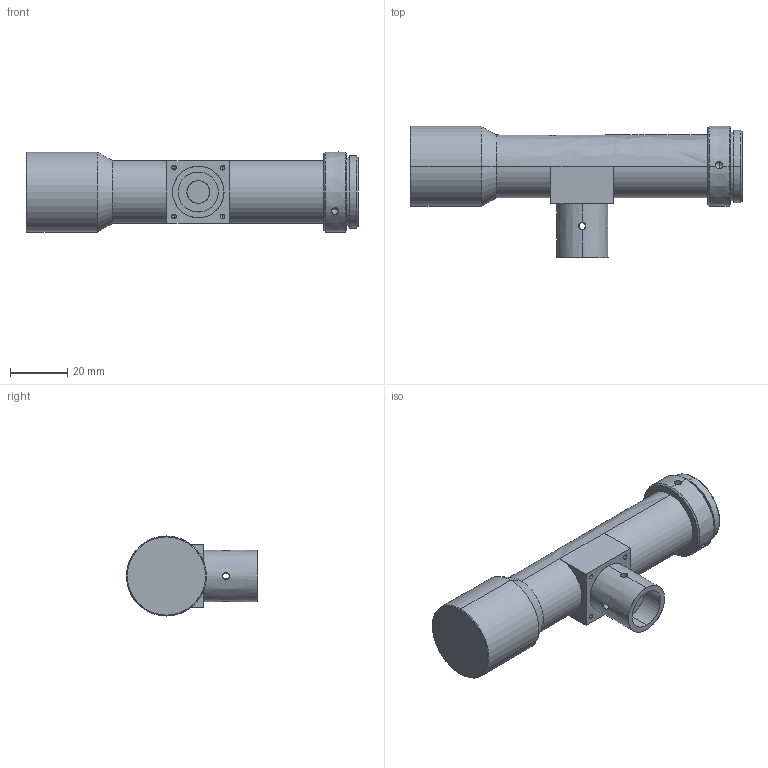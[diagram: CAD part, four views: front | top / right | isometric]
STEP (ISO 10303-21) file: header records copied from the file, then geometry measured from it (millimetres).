
FILE_DESCRIPTION(('Open CASCADE Model'),'2;1');
FILE_NAME('LS-HY-1-180C','2026-10-15T18:22:11',('LumaSpec Vision'),('LumaSpec Vision'),'Open CASCADE STEP processor 7.8','Open CASCADE 7.8' ,'Unknown');
FILE_SCHEMA(('AUTOMOTIVE_DESIGN { 1 0 10303 214 1 1 1 1 }'));
Length unit declared in the file: millimetre
Products named in the file (89): Open CASCADE STEP translator 7.8 17; Open CASCADE STEP translator 7.8 17.1; Open CASCADE STEP translator 7.8 17.2; Open CASCADE STEP translator 7.8 17.3; Open CASCADE STEP translator 7.8 17.4; Open CASCADE STEP translator 7.8 17.5; Open CASCADE STEP translator 7.8 17.6; Open CASCADE STEP translator 7.8 17.7; Open CASCADE STEP translator 7.8 17.8; Open CASCADE STEP translator 7.8 17.9; Open CASCADE STEP translator 7.8 17.10; Open CASCADE STEP translator 7.8 17.11; Open CASCADE STEP translator 7.8 17.12; Open CASCADE STEP translator 7.8 17.13; Open CASCADE STEP translator 7.8 17.14; Open CASCADE STEP translator 7.8 17.15; Open CASCADE STEP translator 7.8 17.16; Open CASCADE STEP translator 7.8 17.17; Open CASCADE STEP translator 7.8 17.18; Open CASCADE STEP translator 7.8 17.19; Open CASCADE STEP translator 7.8 17.20; Open CASCADE STEP translator 7.8 17.21; Open CASCADE STEP translator 7.8 17.22; Open CASCADE STEP translator 7.8 17.23; Open CASCADE STEP translator 7.8 17.24; Open CASCADE STEP translator 7.8 17.25; Open CASCADE STEP translator 7.8 17.26; Open CASCADE STEP translator 7.8 17.27; Open CASCADE STEP translator 7.8 17.28; Open CASCADE STEP translator 7.8 17.29; Open CASCADE STEP translator 7.8 17.30; Open CASCADE STEP translator 7.8 17.31; Open CASCADE STEP translator 7.8 17.32; Open CASCADE STEP translator 7.8 17.33; Open CASCADE STEP translator 7.8 17.34; Open CASCADE STEP translator 7.8 17.35; Open CASCADE STEP translator 7.8 17.36; Open CASCADE STEP translator 7.8 17.37; Open CASCADE STEP translator 7.8 17.38; Open CASCADE STEP translator 7.8 17.39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
Assembly tree (88 placements, depth 2):
  Open CASCADE STEP translator 7.8 17
    Open CASCADE STEP translator 7.8 17.1
    Open CASCADE STEP translator 7.8 17.2
    Open CASCADE STEP translator 7.8 17.3
    Open CASCADE STEP translator 7.8 17.4
    Open CASCADE STEP translator 7.8 17.5
    Open CASCADE STEP translator 7.8 17.6
    Open CASCADE STEP translator 7.8 17.7
    Open CASCADE STEP translator 7.8 17.8
    Open CASCADE STEP translator 7.8 17.9
    Open CASCADE STEP translator 7.8 17.10
    Open CASCADE STEP translator 7.8 17.11
    Open CASCADE STEP translator 7.8 17.12
    Open CASCADE STEP translator 7.8 17.13
    Open CASCADE STEP translator 7.8 17.14
    Open CASCADE STEP translator 7.8 17.15
    Open CASCADE STEP translator 7.8 17.16
    Open CASCADE STEP translator 7.8 17.17
    Open CASCADE STEP translator 7.8 17.18
    Open CASCADE STEP translator 7.8 17.19
    Open CASCADE STEP translator 7.8 17.20
    Open CASCADE STEP translator 7.8 17.21
    Open CASCADE STEP translator 7.8 17.22
    Open CASCADE STEP translator 7.8 17.23
    Open CASCADE STEP translator 7.8 17.24
    Open CASCADE STEP translator 7.8 17.25
    Open CASCADE STEP translator 7.8 17.26
    Open CASCADE STEP translator 7.8 17.27
    Open CASCADE STEP translator 7.8 17.28
    Open CASCADE STEP translator 7.8 17.29
    Open CASCADE STEP translator 7.8 17.30
    Open CASCADE STEP translator 7.8 17.31
    Open CASCADE STEP translator 7.8 17.32
    Open CASCADE STEP translator 7.8 17.33
    Open CASCADE STEP translator 7.8 17.34
    Open CASCADE STEP translator 7.8 17.35
    Open CASCADE STEP translator 7.8 17.36
    Open CASCADE STEP translator 7.8 17.37
    Open CASCADE STEP translator 7.8 17.38
    Open CASCADE STEP translator 7.8 17.39
    Open CASCADE STEP translator 7.8 17.40
    Open CASCADE STEP translator 7.8 17.41
    Open CASCADE STEP translator 7.8 17.42
    Open CASCADE STEP translator 7.8 17.43
    Open CASCADE STEP translator 7.8 17.44
    Open CASCADE STEP translator 7.8 17.45
    Open CASCADE STEP translator 7.8 17.46
    Open CASCADE STEP translator 7.8 17.47
    Open CASCADE STEP translator 7.8 17.48
    Open CASCADE STEP translator 7.8 17.49
    Open CASCADE STEP translator 7.8 17.50
    Open CASCADE STEP translator 7.8 17.51
    Open CASCADE STEP translator 7.8 17.52
    Open CASCADE STEP translator 7.8 17.53
    Open CASCADE STEP translator 7.8 17.54
    Open CASCADE STEP translator 7.8 17.55
    Open CASCADE STEP translator 7.8 17.56
    Open CASCADE STEP translator 7.8 17.57
    Open CASCADE STEP translator 7.8 17.58
    Open CASCADE STEP translator 7.8 17.59
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Bounding box: 116.2 x 45.9 x 28 mm (x, y, z)
Surface area: 12773.5 mm2 (no closed solid volume)
Topology: 0 solids, 88 shells, 88 faces, 1450 edges, 1436 vertices
Faces by surface type: revolution 75, bspline 13
Entity records: 25031 total; most frequent: CARTESIAN_POINT 10497, B_SPLINE_CURVE_WITH_KNOTS 2626, ORIENTED_EDGE 1436, EDGE_CURVE 1436, VERTEX_POINT 1436, SURFACE_CURVE 1436, PCURVE 1436, DEFINITIONAL_REPRESENTATION 1436
